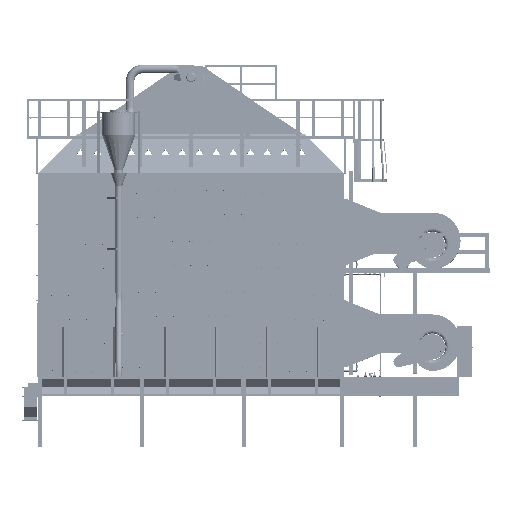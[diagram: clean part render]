
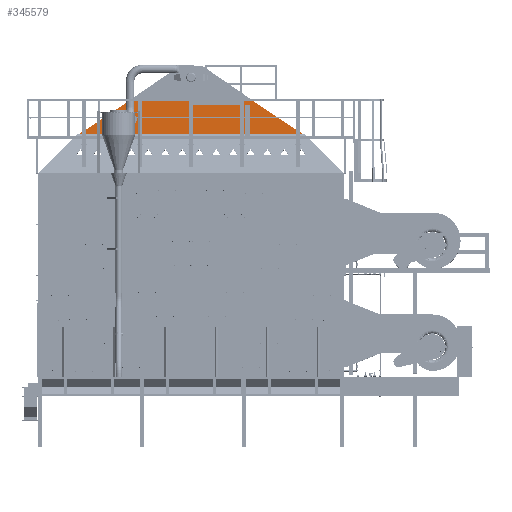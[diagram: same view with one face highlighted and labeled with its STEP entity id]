
A CAD part, top view. The second image highlights one B-rep face of the part: STEP entity #345579.
In plain terms, the highlighted planar face has unit normal (0, 0, 1) as drawn and (0, 1, 0) by its records, which use the part's own axes.
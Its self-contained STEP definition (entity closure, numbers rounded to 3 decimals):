
#63635=FACE_OUTER_BOUND('',#84114,.T.);
#84114=EDGE_LOOP('',(#308233,#308234,#308235,#308236));
#109653=LINE('',#801985,#138074);
#109663=LINE('',#802005,#138084);
#109664=LINE('',#802007,#138085);
#109665=LINE('',#802008,#138086);
#138074=VECTOR('',#454674,0.394);
#138084=VECTOR('',#454694,0.394);
#138085=VECTOR('',#454695,0.394);
#138086=VECTOR('',#454696,0.394);
#170628=VERTEX_POINT('',#801982);
#170629=VERTEX_POINT('',#801984);
#170634=VERTEX_POINT('',#802004);
#170635=VERTEX_POINT('',#802006);
#217174=EDGE_CURVE('',#170629,#170628,#109653,.T.);
#217184=EDGE_CURVE('',#170628,#170634,#109663,.T.);
#217185=EDGE_CURVE('',#170635,#170634,#109664,.T.);
#217186=EDGE_CURVE('',#170635,#170629,#109665,.T.);
#308233=ORIENTED_EDGE('',*,*,#217174,.T.);
#308234=ORIENTED_EDGE('',*,*,#217184,.T.);
#308235=ORIENTED_EDGE('',*,*,#217185,.F.);
#308236=ORIENTED_EDGE('',*,*,#217186,.T.);
#327206=PLANE('',#375904);
#345579=ADVANCED_FACE('',(#63635),#327206,.T.);
#375904=AXIS2_PLACEMENT_3D('',#802003,#454692,#454693);
#454674=DIRECTION('',(-1.,0.,0.));
#454692=DIRECTION('center_axis',(0.,1.,0.));
#454693=DIRECTION('ref_axis',(0.,0.,1.));
#454694=DIRECTION('',(0.833,0.,0.554));
#454695=DIRECTION('',(-1.,0.,0.));
#454696=DIRECTION('',(0.833,0.,-0.554));
#801982=CARTESIAN_POINT('',(-106.562,6.,-31.875));
#801984=CARTESIAN_POINT('',(106.562,6.,-31.875));
#801985=CARTESIAN_POINT('',(0.,6.,-31.875));
#802003=CARTESIAN_POINT('Origin',(0.,6.,-16.));
#802004=CARTESIAN_POINT('',(-58.625,6.,0.));
#802005=CARTESIAN_POINT('',(-106.75,6.,-32.));
#802006=CARTESIAN_POINT('',(58.625,6.,0.));
#802007=CARTESIAN_POINT('',(0.,6.,0.));
#802008=CARTESIAN_POINT('',(58.625,6.,0.));
